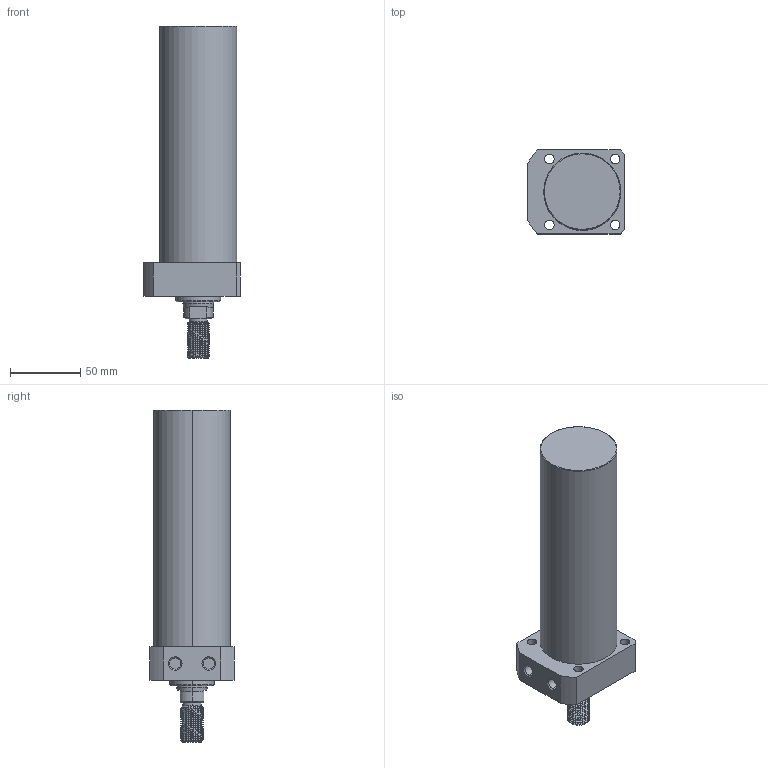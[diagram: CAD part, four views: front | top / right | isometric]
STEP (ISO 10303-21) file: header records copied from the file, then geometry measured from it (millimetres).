
FILE_DESCRIPTION (( 'STEP AP214' ), '1' );
FILE_NAME ('CLLR-055CT-140.STEP', '2020-01-10T00:59:51', ( 'Windows' ), ( 'Microsoft' ), 'SwSTEP 2.0', 'SolidWorks 2015', '' );
FILE_SCHEMA (( 'AUTOMOTIVE_DESIGN' ));
Length unit declared in the file: millimetre
Products named in the file (1): CLLR-055CT-140
Bounding box: 69 x 60 x 237 mm (x, y, z)
Volume: 506169.7 mm3; surface area: 49077.4 mm2
Topology: 1 solids, 1 shells, 102 faces, 262 edges, 170 vertices
Faces by surface type: cylinder 62, plane 20, cone 16, torus 2, bspline 2
Entity records: 5104 total; most frequent: CARTESIAN_POINT 2691, ORIENTED_EDGE 524, DIRECTION 461, EDGE_CURVE 262, AXIS2_PLACEMENT_3D 181, VERTEX_POINT 170, EDGE_LOOP 118, FACE_OUTER_BOUND 102
